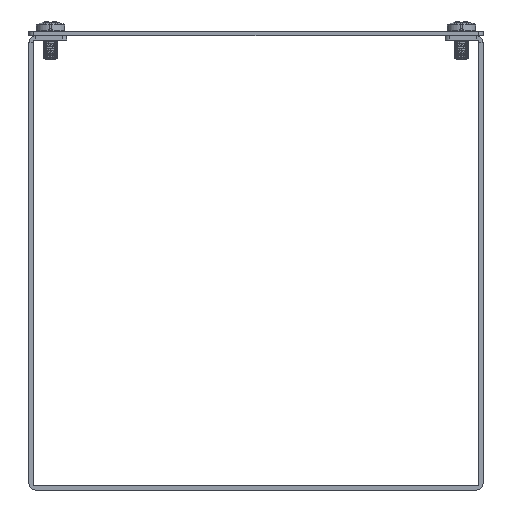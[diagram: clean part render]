
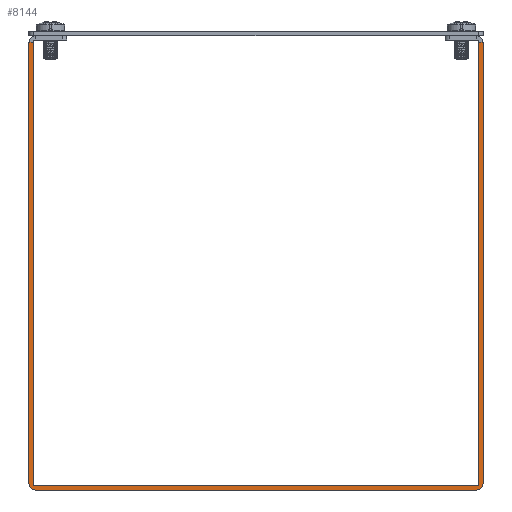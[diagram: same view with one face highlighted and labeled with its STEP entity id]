
A CAD part, front view. The second image highlights one B-rep face of the part: STEP entity #8144.
In plain terms, the highlighted planar face has unit normal (0, -1, 0).
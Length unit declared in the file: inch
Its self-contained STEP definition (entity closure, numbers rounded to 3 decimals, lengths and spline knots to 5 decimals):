
#470=PLANE('',#8874);
#753=FACE_OUTER_BOUND('',#1220,.T.);
#1220=EDGE_LOOP('',(#6038,#6039,#6040,#6041,#6042,#6043,#6044,#6045,#6046,
#6047,#6048,#6049));
#1834=LINE('',#12482,#2547);
#1843=LINE('',#12509,#2556);
#1851=LINE('',#12535,#2564);
#1853=LINE('',#12539,#2566);
#1854=LINE('',#12543,#2567);
#1855=LINE('',#12546,#2568);
#1856=LINE('',#12548,#2569);
#1857=LINE('',#12552,#2570);
#2547=VECTOR('',#10181,0.3937);
#2556=VECTOR('',#10214,0.3937);
#2564=VECTOR('',#10240,0.3937);
#2566=VECTOR('',#10244,0.3937);
#2567=VECTOR('',#10247,0.3937);
#2568=VECTOR('',#10250,0.3937);
#2569=VECTOR('',#10251,0.3937);
#2570=VECTOR('',#10254,0.3937);
#3181=CIRCLE('',#8875,0.031);
#3182=CIRCLE('',#8876,0.031);
#3183=CIRCLE('',#8877,0.086);
#3184=CIRCLE('',#8878,0.086);
#3632=VERTEX_POINT('',#12474);
#3634=VERTEX_POINT('',#12480);
#3638=VERTEX_POINT('',#12497);
#3640=VERTEX_POINT('',#12508);
#3649=VERTEX_POINT('',#12534);
#3650=VERTEX_POINT('',#12538);
#3651=VERTEX_POINT('',#12540);
#3652=VERTEX_POINT('',#12542);
#3653=VERTEX_POINT('',#12544);
#3654=VERTEX_POINT('',#12547);
#3655=VERTEX_POINT('',#12549);
#3656=VERTEX_POINT('',#12551);
#4556=EDGE_CURVE('',#3632,#3634,#1834,.T.);
#4569=EDGE_CURVE('',#3640,#3638,#1843,.T.);
#4582=EDGE_CURVE('',#3632,#3649,#1851,.T.);
#4584=EDGE_CURVE('',#3634,#3650,#1853,.T.);
#4585=EDGE_CURVE('',#3651,#3650,#3181,.T.);
#4586=EDGE_CURVE('',#3651,#3652,#1854,.T.);
#4587=EDGE_CURVE('',#3652,#3653,#3182,.T.);
#4588=EDGE_CURVE('',#3653,#3640,#1855,.T.);
#4589=EDGE_CURVE('',#3654,#3638,#1856,.T.);
#4590=EDGE_CURVE('',#3655,#3654,#3183,.T.);
#4591=EDGE_CURVE('',#3656,#3655,#1857,.T.);
#4592=EDGE_CURVE('',#3656,#3649,#3184,.T.);
#6038=ORIENTED_EDGE('',*,*,#4556,.T.);
#6039=ORIENTED_EDGE('',*,*,#4584,.T.);
#6040=ORIENTED_EDGE('',*,*,#4585,.F.);
#6041=ORIENTED_EDGE('',*,*,#4586,.T.);
#6042=ORIENTED_EDGE('',*,*,#4587,.T.);
#6043=ORIENTED_EDGE('',*,*,#4588,.T.);
#6044=ORIENTED_EDGE('',*,*,#4569,.T.);
#6045=ORIENTED_EDGE('',*,*,#4589,.F.);
#6046=ORIENTED_EDGE('',*,*,#4590,.F.);
#6047=ORIENTED_EDGE('',*,*,#4591,.F.);
#6048=ORIENTED_EDGE('',*,*,#4592,.T.);
#6049=ORIENTED_EDGE('',*,*,#4582,.F.);
#8144=ADVANCED_FACE('',(#753),#470,.T.);
#8874=AXIS2_PLACEMENT_3D('',#12537,#10242,#10243);
#8875=AXIS2_PLACEMENT_3D('',#12541,#10245,#10246);
#8876=AXIS2_PLACEMENT_3D('',#12545,#10248,#10249);
#8877=AXIS2_PLACEMENT_3D('',#12550,#10252,#10253);
#8878=AXIS2_PLACEMENT_3D('',#12553,#10255,#10256);
#10181=DIRECTION('',(-1.,0.,0.));
#10214=DIRECTION('',(-1.,0.,0.));
#10240=DIRECTION('',(0.,0.,-1.));
#10242=DIRECTION('center_axis',(0.,-1.,0.));
#10243=DIRECTION('ref_axis',(0.,0.,-1.));
#10244=DIRECTION('',(0.,0.,-1.));
#10245=DIRECTION('center_axis',(0.,-1.,0.));
#10246=DIRECTION('ref_axis',(0.,0.,-1.));
#10247=DIRECTION('',(-1.,0.,0.));
#10248=DIRECTION('center_axis',(0.,1.,0.));
#10249=DIRECTION('ref_axis',(0.,0.,-1.));
#10250=DIRECTION('',(0.,0.,1.));
#10251=DIRECTION('',(0.,0.,1.));
#10252=DIRECTION('center_axis',(0.,1.,0.));
#10253=DIRECTION('ref_axis',(0.,0.,-1.));
#10254=DIRECTION('',(-1.,0.,0.));
#10255=DIRECTION('center_axis',(0.,-1.,0.));
#10256=DIRECTION('ref_axis',(0.,0.,-1.));
#12474=CARTESIAN_POINT('',(3.,-18.,5.914));
#12480=CARTESIAN_POINT('',(2.945,-18.,5.914));
#12482=CARTESIAN_POINT('',(-0.0275,-18.,5.914));
#12497=CARTESIAN_POINT('',(-3.,-18.,5.914));
#12508=CARTESIAN_POINT('',(-2.945,-18.,5.914));
#12509=CARTESIAN_POINT('',(-2.9725,-18.,5.914));
#12534=CARTESIAN_POINT('',(3.,-18.,0.086));
#12535=CARTESIAN_POINT('',(3.,-18.,6.));
#12537=CARTESIAN_POINT('Origin',(-3.,-18.,0.));
#12538=CARTESIAN_POINT('',(2.945,-18.,0.086));
#12539=CARTESIAN_POINT('',(2.945,-18.,6.));
#12540=CARTESIAN_POINT('',(2.914,-18.,0.055));
#12541=CARTESIAN_POINT('Origin',(2.914,-18.,0.086));
#12542=CARTESIAN_POINT('',(-2.914,-18.,0.055));
#12543=CARTESIAN_POINT('',(3.,-18.,0.055));
#12544=CARTESIAN_POINT('',(-2.945,-18.,0.086));
#12545=CARTESIAN_POINT('Origin',(-2.914,-18.,0.086));
#12546=CARTESIAN_POINT('',(-2.945,-18.,0.));
#12547=CARTESIAN_POINT('',(-3.,-18.,0.086));
#12548=CARTESIAN_POINT('',(-3.,-18.,0.));
#12549=CARTESIAN_POINT('',(-2.914,-18.,0.));
#12550=CARTESIAN_POINT('Origin',(-2.914,-18.,0.086));
#12551=CARTESIAN_POINT('',(2.914,-18.,0.));
#12552=CARTESIAN_POINT('',(3.,-18.,0.));
#12553=CARTESIAN_POINT('Origin',(2.914,-18.,0.086));
